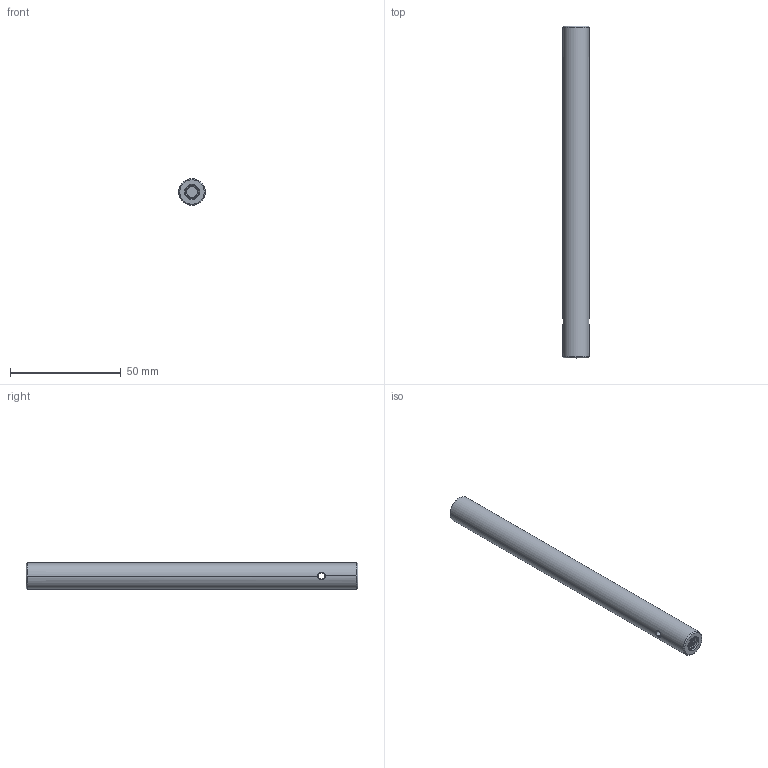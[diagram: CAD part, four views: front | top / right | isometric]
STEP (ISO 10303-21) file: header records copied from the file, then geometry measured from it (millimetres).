
FILE_DESCRIPTION((''),'2;1');
FILE_NAME('PCA15-S','2020-10-27T',('Administrator'),(''),'CREO PARAMETRIC BY PTC INC, 2015290','CREO PARAMETRIC BY PTC INC, 2015290','');
FILE_SCHEMA(('CONFIG_CONTROL_DESIGN'));
Length unit declared in the file: millimetre
Products named in the file (1): PCA15-S
Bounding box: 12 x 150 x 12 mm (x, y, z)
Volume: 16288.2 mm3; surface area: 6543.5 mm2
Topology: 1 solids, 1 shells, 102 faces, 264 edges, 164 vertices
Faces by surface type: cylinder 47, bspline 43, cone 8, plane 4
Entity records: 8555 total; most frequent: CARTESIAN_POINT 6438, ORIENTED_EDGE 528, EDGE_CURVE 264, DIRECTION 259, VERTEX_POINT 164, B_SPLINE_CURVE_WITH_KNOTS 143, EDGE_LOOP 104, FACE_OUTER_BOUND 102
